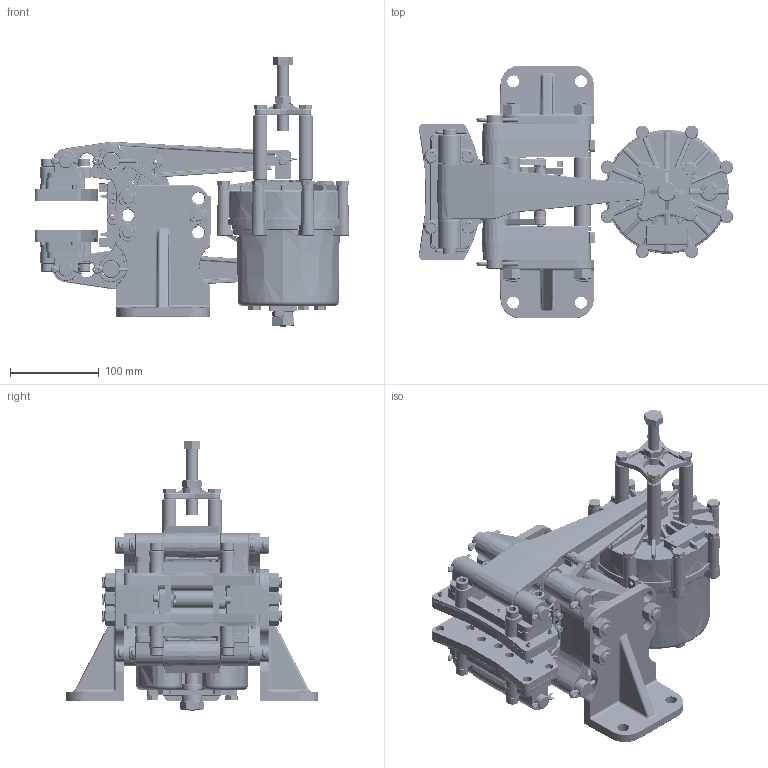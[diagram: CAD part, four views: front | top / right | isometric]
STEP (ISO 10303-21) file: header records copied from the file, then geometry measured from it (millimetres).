
FILE_DESCRIPTION (( 'STEP AP214' ), '1' );
FILE_NAME ('5020-SAW-RH-R.STEP', '2020-02-12T23:28:20', ( '' ), ( '' ), 'SwSTEP 2.0', 'SolidWorks 2019', '' );
FILE_SCHEMA (( 'AUTOMOTIVE_DESIGN' ));
Length unit declared in the file: inch
Products named in the file (2): 5020-SAW-RH-R
Bounding box: 354.09 x 284.48 x 304.39 mm (x, y, z)
Surface area: 662685.1 mm2 (no closed solid volume)
Topology: 0 solids, 174 shells, 3479 faces, 10673 edges, 7019 vertices
Faces by surface type: plane 962, cylinder 931, cone 729, torus 430, bspline 408, sphere 19
Entity records: 196328 total; most frequent: CARTESIAN_POINT 62560, DIRECTION 18275, ORIENTED_EDGE 17360, EDGE_CURVE 10627, AXIS2_PLACEMENT_3D 7326, VERTEX_POINT 7019, CIRCLE 4253, EDGE_LOOP 3823
